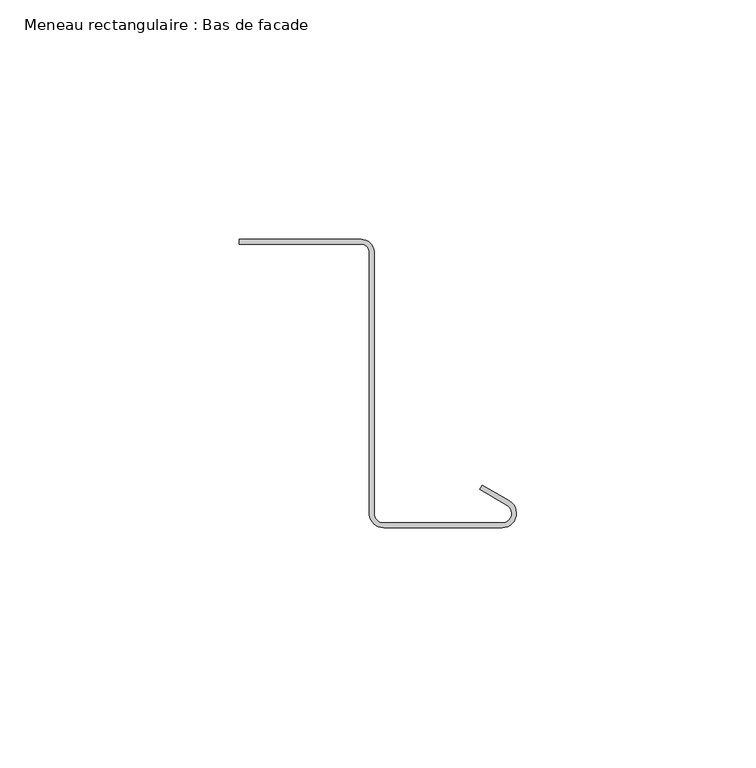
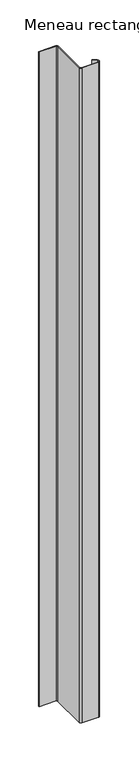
"""IFC4 building model written with IfcOpenShell, lengths in millimetres: member geometry, Meneau rectangulaire : Bas de facade."""

from ifc_helpers import new_model, si_unit, point, frame, frame_2d, origin, place, context, project, spatial, polyline, circle_curve, trimmed, segment, composite_curve, outline, extrude, source, transform, mapped, element, save


def meneau_rectangulaire_bas_de_facade_1d348fc8(model_context):
    return source(origin(), model_context, "Body", "SweptSolid", [
        extrude(outline(composite_curve([segment(trimmed(circle_curve(frame_2d((-32.4584179, 0.2088923)), 2.75), [point((-32.4584179, 2.9588923))], [point((-29.7143802, 0.3898824))], False, "CARTESIAN"), True, "CONTINUOUS"), segment(polyline([(-29.7143802, 0.3898824), (-29.7143802, -54.5495817)]), True, "CONTINUOUS"), segment(trimmed(circle_curve(frame_2d((-27.735368, -54.2605998)), 2.0), [point((-29.7143802, -54.5495817))], [point((-27.735368, -56.2605998))], True, "CARTESIAN"), True, "CONTINUOUS"), segment(polyline([(-27.735368, -56.2605998), (-3.0, -56.2605998)]), True, "CONTINUOUS"), segment(trimmed(circle_curve(frame_2d((-3.0, -54.2605998)), 2.0), [point((-3.0, -56.2605998))], [point((-2.0, -52.528549))], True, "CARTESIAN"), True, "CONTINUOUS"), segment(polyline([(-2.0, -52.528549), (-7.6638061, -49.258549), (-7.1638061, -48.3925235), (-1.5, -51.6625235)]), True, "CONTINUOUS"), segment(trimmed(circle_curve(frame_2d((-3.0, -54.2605998)), 3.0), [point((-1.5, -51.6625235))], [point((-3.0, -57.2605998))], False, "CARTESIAN"), True, "CONTINUOUS"), segment(polyline([(-3.0, -57.2605998), (-27.735368, -57.2605998)]), True, "CONTINUOUS"), segment(trimmed(circle_curve(frame_2d((-27.735368, -54.2605998)), 3.0), [point((-27.735368, -57.2605998))], [point((-30.7239521, -54.522067))], False, "CARTESIAN"), True, "CONTINUOUS"), segment(polyline([(-30.7239521, -54.522067), (-30.7239521, 0.4415475)]), True, "CONTINUOUS"), segment(trimmed(circle_curve(frame_2d((-32.4584179, 0.2088923)), 1.75), [point((-30.7239521, 0.4415475))], [point((-32.4584179, 1.9588923))], True, "CARTESIAN"), True, "CONTINUOUS"), segment(polyline([(-32.4584179, 1.9588923), (-57.8548383, 1.9588923), (-57.8548383, 2.9588923), (-32.4584179, 2.9588923)]), True, "CONTINUOUS")], self_intersect=False)), frame((0.0, 0.0, -1033.3333333), z_axis=(0.0, 0.0, 1.0), x_axis=(1.0, 0.0, 0.0)), (0.0, 0.0, 1.0), 1033.3333333),
    ])


if __name__ == "__main__":
    model = new_model("IFC4")
    model_context = context("Model", 3, world=origin())
    ifc_project = project(units=[si_unit("LENGTHUNIT", "METRE", prefix="MILLI")], contexts=[model_context])
    site = spatial("IfcSite", under=ifc_project)
    building = spatial("IfcBuilding", under=site)
    placement = place(None, origin())
    meneau_rectangulaire_bas_de_facade_shape = meneau_rectangulaire_bas_de_facade_1d348fc8(model_context)
    element("IfcMember", 1, ObjectType="Meneau rectangulaire : Bas de facade", at=placement, inside=building, context=model_context, shape_type="MappedRepresentation", body=[
        mapped(meneau_rectangulaire_bas_de_facade_shape, transform((0.0, 0.0, 0.0), x_axis=(1.0, 0.0, 0.0), y_axis=(0.0, 1.0, 0.0), z_axis=(0.0, 0.0, 1.0))),
    ])
    save(model, "model.ifc")
